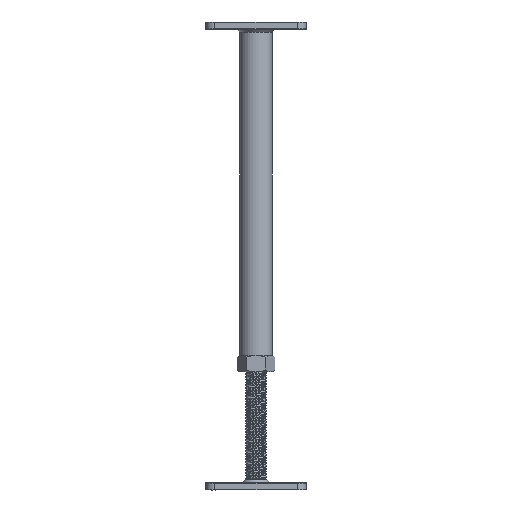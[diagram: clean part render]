
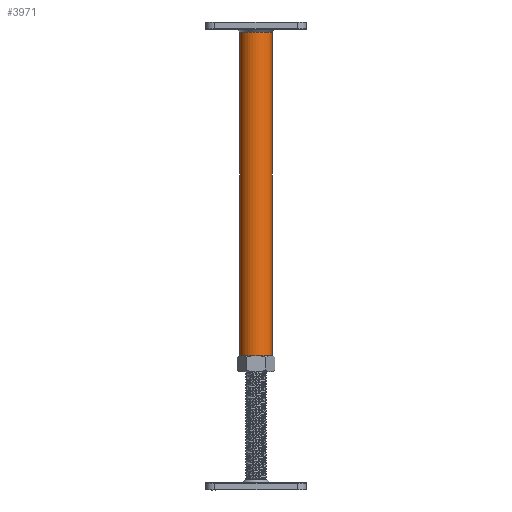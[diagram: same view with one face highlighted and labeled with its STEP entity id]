
A CAD part, front view. The second image highlights one B-rep face of the part: STEP entity #3971.
In plain terms, the highlighted cylindrical face has radius 18 mm (diameter 36 mm), a partial arc.
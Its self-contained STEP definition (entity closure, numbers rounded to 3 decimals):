
#527 = CARTESIAN_POINT ( 'NONE',  ( 624.363, 980.188, 1628.564 ) ) ;
#529 = CARTESIAN_POINT ( 'NONE',  ( 642.363, 980.188, 1628.564 ) ) ;
#1594 = FACE_OUTER_BOUND ( 'NONE', #16228, .T. ) ;
#2096 = CARTESIAN_POINT ( 'NONE',  ( 624.363, 980.188, 1269.064 ) ) ;
#2133 = VECTOR ( 'NONE', #11921, 1000. ) ;
#3074 = AXIS2_PLACEMENT_3D ( 'NONE', #36361, #9754, #4608 ) ;
#3870 = CARTESIAN_POINT ( 'NONE',  ( 642.363, 980.188, 1628.564 ) ) ;
#3971 = ADVANCED_FACE ( 'NONE', ( #1594 ), #9964, .T. ) ;
#4608 = DIRECTION ( 'NONE',  ( 1., 0., 0. ) ) ;
#6236 = ORIENTED_EDGE ( 'NONE', *, *, #34842, .F. ) ;
#8535 = VERTEX_POINT ( 'NONE', #8890 ) ;
#8817 = EDGE_CURVE ( 'NONE', #14212, #9866, #35874, .T. ) ;
#8890 = CARTESIAN_POINT ( 'NONE',  ( 660.363, 980.188, 1628.564 ) ) ;
#9754 = DIRECTION ( 'NONE',  ( 0., 0., 1. ) ) ;
#9866 = VERTEX_POINT ( 'NONE', #2096 ) ;
#9964 = CYLINDRICAL_SURFACE ( 'NONE', #27830, 18. ) ;
#9996 = VECTOR ( 'NONE', #16402, 1000. ) ;
#11921 = DIRECTION ( 'NONE',  ( 0., 0., -1. ) ) ;
#13180 = DIRECTION ( 'NONE',  ( 0., 0., -1. ) ) ;
#14212 = VERTEX_POINT ( 'NONE', #35061 ) ;
#14952 = DIRECTION ( 'NONE',  ( 1., 0., 0. ) ) ;
#15678 = CIRCLE ( 'NONE', #27885, 18. ) ;
#16228 = EDGE_LOOP ( 'NONE', ( #26516, #6236, #26734, #21041 ) ) ;
#16402 = DIRECTION ( 'NONE',  ( 0., 0., -1. ) ) ;
#17986 = DIRECTION ( 'NONE',  ( 0., 0., 1. ) ) ;
#20352 = EDGE_CURVE ( 'NONE', #8535, #28363, #22297, .T. ) ;
#21041 = ORIENTED_EDGE ( 'NONE', *, *, #31494, .T. ) ;
#22297 = LINE ( 'NONE', #33905, #9996 ) ;
#26516 = ORIENTED_EDGE ( 'NONE', *, *, #20352, .F. ) ;
#26734 = ORIENTED_EDGE ( 'NONE', *, *, #8817, .T. ) ;
#27830 = AXIS2_PLACEMENT_3D ( 'NONE', #3870, #13180, #33149 ) ;
#27885 = AXIS2_PLACEMENT_3D ( 'NONE', #529, #17986, #14952 ) ;
#28363 = VERTEX_POINT ( 'NONE', #37284 ) ;
#29797 = CIRCLE ( 'NONE', #3074, 18. ) ;
#31494 = EDGE_CURVE ( 'NONE', #9866, #28363, #29797, .T. ) ;
#33149 = DIRECTION ( 'NONE',  ( -1., 0., 0. ) ) ;
#33905 = CARTESIAN_POINT ( 'NONE',  ( 660.363, 980.188, 1628.564 ) ) ;
#34842 = EDGE_CURVE ( 'NONE', #14212, #8535, #15678, .T. ) ;
#35061 = CARTESIAN_POINT ( 'NONE',  ( 624.363, 980.188, 1628.564 ) ) ;
#35874 = LINE ( 'NONE', #527, #2133 ) ;
#36361 = CARTESIAN_POINT ( 'NONE',  ( 642.363, 980.188, 1269.064 ) ) ;
#37284 = CARTESIAN_POINT ( 'NONE',  ( 660.363, 980.188, 1269.064 ) ) ;
